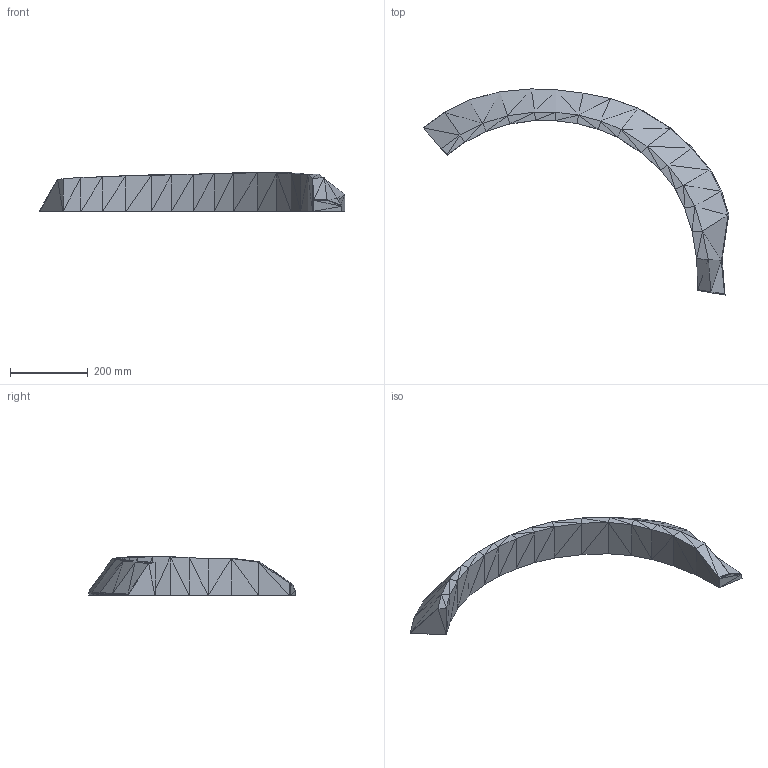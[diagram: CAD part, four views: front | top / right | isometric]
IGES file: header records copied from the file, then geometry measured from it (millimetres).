
Global section: file name: RRA Mould; native system: AutoCAD 2018 - English; preprocessor: Autodesk Translation Framework DWG producer (atf_dwg_producer); organization: unknown; date: 20180102.011028; units: millimetre
Bounding box: 787.42 x 531.52 x 99.65 mm (x, y, z)
Surface area: 338535 mm2 (no closed solid volume)
Topology: 0 solids, 0 shells, 194 faces, 873 edges, 1164 vertices
Faces by surface type: bspline 194
